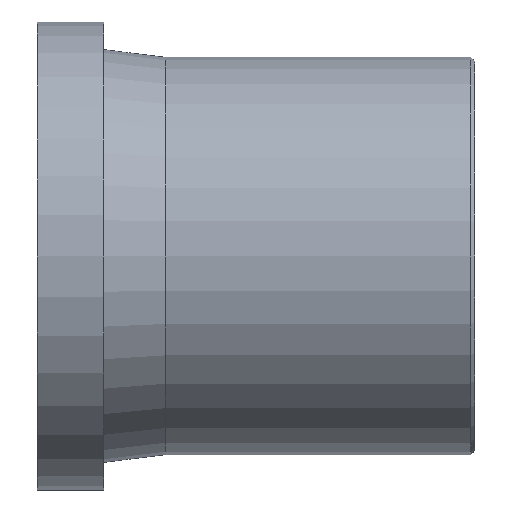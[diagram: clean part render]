
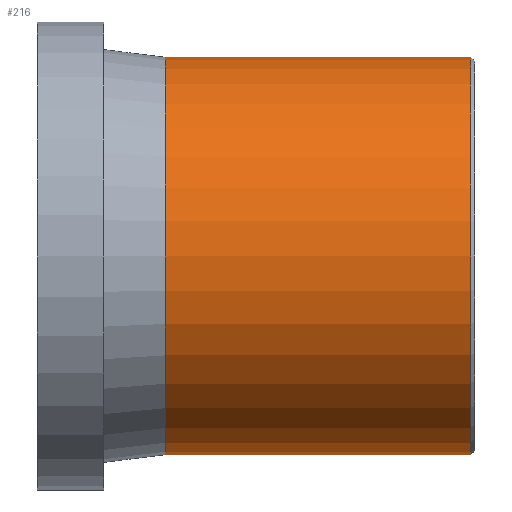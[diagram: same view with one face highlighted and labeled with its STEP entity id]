
A CAD part, front view. The second image highlights one B-rep face of the part: STEP entity #216.
In plain terms, the highlighted cylindrical face has radius 90 mm (diameter 180 mm), a full revolution.
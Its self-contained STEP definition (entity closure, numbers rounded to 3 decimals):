
#24=CYLINDRICAL_SURFACE('',#240,90.);
#34=FACE_BOUND('',#76,.T.);
#54=FACE_OUTER_BOUND('',#75,.T.);
#75=EDGE_LOOP('',(#175));
#76=EDGE_LOOP('',(#176));
#113=CIRCLE('',#238,90.);
#115=CIRCLE('',#241,90.);
#133=VERTEX_POINT('',#361);
#135=VERTEX_POINT('',#366);
#153=EDGE_CURVE('',#133,#133,#113,.T.);
#155=EDGE_CURVE('',#135,#135,#115,.T.);
#175=ORIENTED_EDGE('',*,*,#155,.T.);
#176=ORIENTED_EDGE('',*,*,#153,.F.);
#216=ADVANCED_FACE('',(#54,#34),#24,.T.);
#238=AXIS2_PLACEMENT_3D('',#362,#281,#282);
#240=AXIS2_PLACEMENT_3D('',#365,#285,#286);
#241=AXIS2_PLACEMENT_3D('',#367,#287,#288);
#281=DIRECTION('center_axis',(1.,0.,0.));
#282=DIRECTION('ref_axis',(0.,-1.,0.));
#285=DIRECTION('center_axis',(1.,0.,0.));
#286=DIRECTION('ref_axis',(0.,1.,0.));
#287=DIRECTION('center_axis',(1.,0.,0.));
#288=DIRECTION('ref_axis',(0.,0.,-1.));
#361=CARTESIAN_POINT('',(-1.8,90.,0.));
#362=CARTESIAN_POINT('Origin',(-1.8,0.,
0.));
#365=CARTESIAN_POINT('Origin',(-70.,0.,0.));
#366=CARTESIAN_POINT('',(-140.,90.,0.));
#367=CARTESIAN_POINT('Origin',(-140.,0.,0.));
